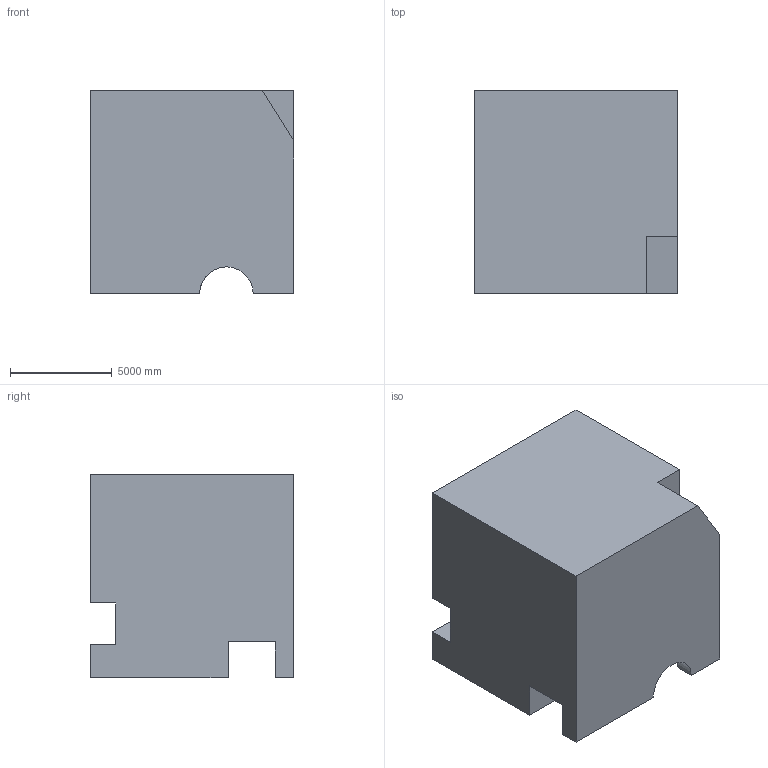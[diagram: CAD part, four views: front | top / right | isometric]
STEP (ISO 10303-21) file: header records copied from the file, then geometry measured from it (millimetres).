
FILE_DESCRIPTION (( 'STEP AP203' ), '1' );
FILE_NAME ('453.STEP', '2022-07-29T11:20:37', ( 'user' ), ( '' ), 'SwSTEP 2.0', 'SolidWorks 2021', '' );
FILE_SCHEMA (( 'CONFIG_CONTROL_DESIGN' ));
Length unit declared in the file: centimetre
Products named in the file (1): 453
Bounding box: 10000 x 10000 x 10000 mm (x, y, z)
Volume: 893485202695.1 mm3; surface area: 685583104.4 mm2
Topology: 1 solids, 1 shells, 26 faces, 72 edges, 48 vertices
Faces by surface type: plane 22, cylinder 4
Entity records: 901 total; most frequent: CARTESIAN_POINT 153, ORIENTED_EDGE 144, DIRECTION 132, EDGE_CURVE 72, VECTOR 62, LINE 62, VERTEX_POINT 48, AXIS2_PLACEMENT_3D 35
